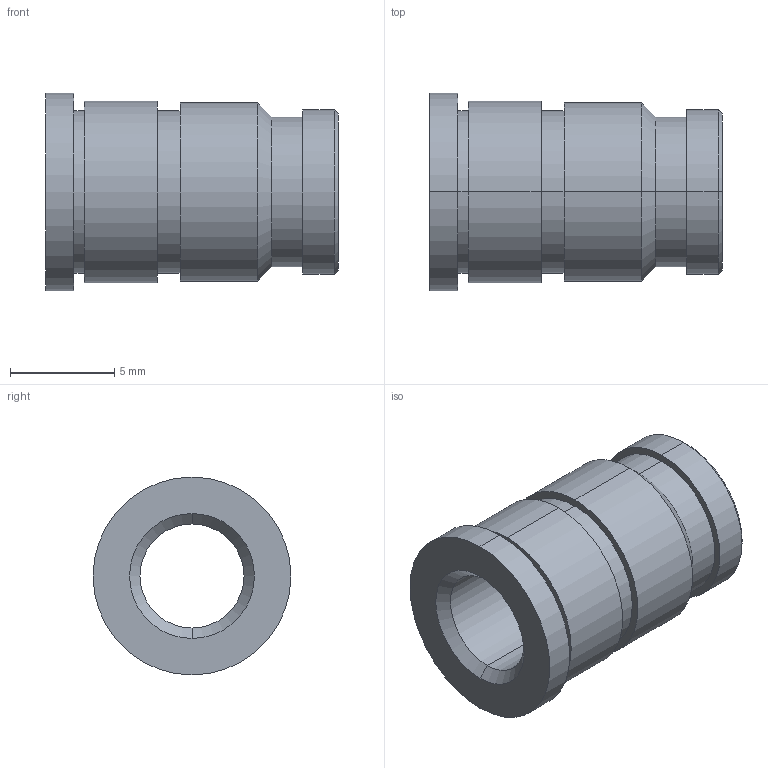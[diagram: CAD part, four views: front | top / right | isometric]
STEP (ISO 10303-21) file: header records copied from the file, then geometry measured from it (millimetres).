
FILE_DESCRIPTION (( 'STEP AP203' ), '1' );
FILE_NAME ('FSUK-HISH-M06-S.STEP', '2021-04-15T08:56:36', ( '' ), ( '' ), 'SwSTEP 2.0', 'SolidWorks 2021', '' );
FILE_SCHEMA (( 'CONFIG_CONTROL_DESIGN' ));
Length unit declared in the file: millimetre
Products named in the file (1): FSUK-HISH-M06-S
Bounding box: 14.05 x 9.5 x 9.5 mm (x, y, z)
Volume: 490.9 mm3; surface area: 729.1 mm2
Topology: 1 solids, 1 shells, 31 faces, 62 edges, 38 vertices
Faces by surface type: cylinder 16, cone 8, plane 7
Entity records: 895 total; most frequent: DIRECTION 164, CARTESIAN_POINT 132, ORIENTED_EDGE 124, AXIS2_PLACEMENT_3D 70, EDGE_CURVE 62, CIRCLE 38, EDGE_LOOP 38, VERTEX_POINT 38
